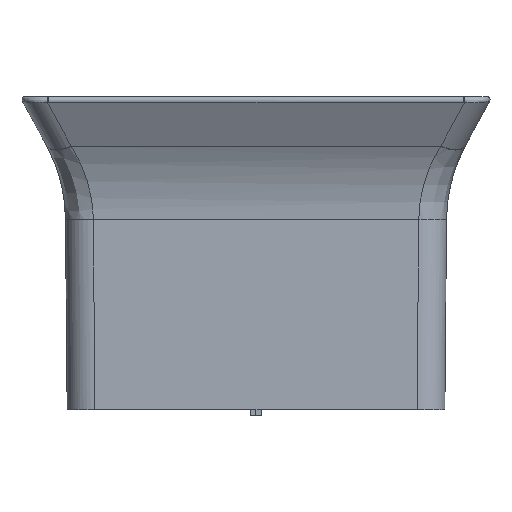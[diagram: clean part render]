
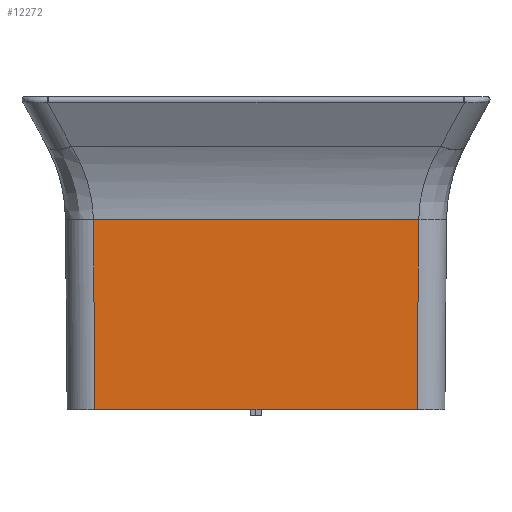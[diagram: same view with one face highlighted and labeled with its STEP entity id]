
A CAD part, front view. The second image highlights one B-rep face of the part: STEP entity #12272.
In plain terms, the highlighted planar face has unit normal (0, -1, -0.007).
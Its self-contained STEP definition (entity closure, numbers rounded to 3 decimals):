
#651=CARTESIAN_POINT('',(-289.633,-1679.723,0.));
#2725=CARTESIAN_POINT('',(-292.635,-1682.163,
341.617));
#2755=CARTESIAN_POINT('',(292.635,-1682.164,341.631));
#2799=DIRECTION('',(1.,0.,0.));
#2800=VECTOR('',#2799,579.266);
#2801=CARTESIAN_POINT('',(-289.633,-1679.723,0.));
#2802=LINE('',#2801,#2800);
#2803=DIRECTION('',(0.009,0.007,-1.));
#2804=VECTOR('',#2803,341.639);
#2805=CARTESIAN_POINT('',(-292.635,-1682.163,
341.617));
#2806=LINE('',#2805,#2804);
#2807=DIRECTION('',(-1.,0.,0.));
#2808=VECTOR('',#2807,585.271);
#2809=CARTESIAN_POINT('',(292.635,-1682.164,341.631));
#2810=LINE('',#2809,#2808);
#2811=DIRECTION('',(0.009,-0.007,1.));
#2812=VECTOR('',#2811,341.653);
#2813=CARTESIAN_POINT('',(289.633,-1679.723,
0.));
#2814=LINE('',#2813,#2812);
#4899=VERTEX_POINT('',#2725);
#4930=VERTEX_POINT('',#651);
#4944=CARTESIAN_POINT('',(289.633,-1679.723,
0.));
#4945=VERTEX_POINT('',#4944);
#4955=VERTEX_POINT('',#2755);
#12260=CARTESIAN_POINT('',(0.,-1682.163,341.617));
#12261=DIRECTION('',(0.,1.,0.007));
#12262=DIRECTION('',(0.,0.007,-1.));
#12263=AXIS2_PLACEMENT_3D('',#12260,#12261,#12262);
#12264=PLANE('',#12263);
#12265=ORIENTED_EDGE('',*,*,#6461,.F.);
#12266=ORIENTED_EDGE('',*,*,#12254,.F.);
#12267=ORIENTED_EDGE('',*,*,#12229,.F.);
#12269=ORIENTED_EDGE('',*,*,#12268,.F.);
#12270=EDGE_LOOP('',(#12265,#12266,#12267,#12269));
#12271=FACE_OUTER_BOUND('',#12270,.F.);
#6461=EDGE_CURVE('',#4930,#4945,#2802,.T.);
#12229=EDGE_CURVE('',#4955,#4899,#2810,.T.);
#12254=EDGE_CURVE('',#4899,#4930,#2806,.T.);
#12268=EDGE_CURVE('',#4945,#4955,#2814,.T.);
#12272=ADVANCED_FACE('',(#12271),#12264,.F.);
